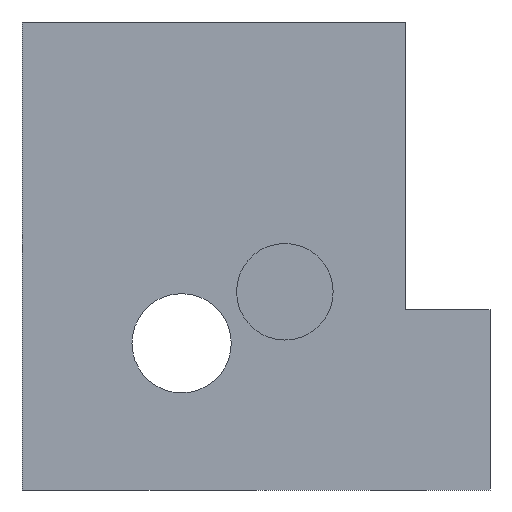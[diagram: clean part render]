
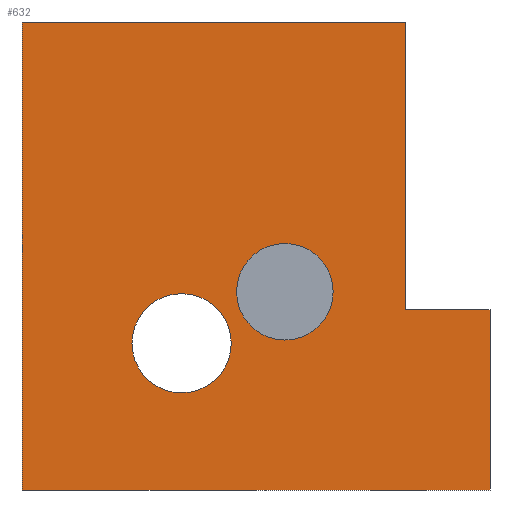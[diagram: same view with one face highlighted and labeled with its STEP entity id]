
A CAD part, left-side view. The second image highlights one B-rep face of the part: STEP entity #632.
In plain terms, the highlighted planar face has unit normal (-1, 0, 0).
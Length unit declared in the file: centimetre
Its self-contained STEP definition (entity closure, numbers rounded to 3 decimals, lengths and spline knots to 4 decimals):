
#10 = ORIENTED_EDGE ( 'NONE', *, *, #736, .T. ) ;
#40 = EDGE_LOOP ( 'NONE', ( #99, #829 ) ) ;
#50 = CARTESIAN_POINT ( 'NONE',  ( 0., 0., 385.5378 ) ) ;
#52 = DIRECTION ( 'NONE',  ( 0., 0., -1. ) ) ;
#62 = CARTESIAN_POINT ( 'NONE',  ( 0., 181.4638, 385.5378 ) ) ;
#63 = VECTOR ( 'NONE', #302, 100. ) ;
#86 = DIRECTION ( 'NONE',  ( 0., 0., -1. ) ) ;
#95 = CARTESIAN_POINT ( 'NONE',  ( 0., 658.929, 207.4998 ) ) ;
#99 = ORIENTED_EDGE ( 'NONE', *, *, #328, .F. ) ;
#113 = DIRECTION ( 'NONE',  ( 1., 0., 0. ) ) ;
#114 = CIRCLE ( 'NONE', #168, 103.1527 ) ;
#148 = AXIS2_PLACEMENT_3D ( 'NONE', #759, #701, #707 ) ;
#157 = VERTEX_POINT ( 'NONE', #398 ) ;
#158 = FACE_OUTER_BOUND ( 'NONE', #726, .T. ) ;
#160 = VECTOR ( 'NONE', #345, 100. ) ;
#164 = EDGE_CURVE ( 'NONE', #217, #192, #610, .T. ) ;
#168 = AXIS2_PLACEMENT_3D ( 'NONE', #566, #625, #372 ) ;
#170 = LINE ( 'NONE', #427, #602 ) ;
#192 = VERTEX_POINT ( 'NONE', #95 ) ;
#194 = VERTEX_POINT ( 'NONE', #417 ) ;
#200 = VERTEX_POINT ( 'NONE', #483 ) ;
#205 = CARTESIAN_POINT ( 'NONE',  ( 0., 0., 1000. ) ) ;
#215 = LINE ( 'NONE', #688, #796 ) ;
#217 = VERTEX_POINT ( 'NONE', #351 ) ;
#220 = PLANE ( 'NONE',  #716 ) ;
#231 = FACE_BOUND ( 'NONE', #237, .T. ) ;
#234 = CARTESIAN_POINT ( 'NONE',  ( 0., 181.4638, 385.5378 ) ) ;
#236 = CIRCLE ( 'NONE', #779, 103.1527 ) ;
#237 = EDGE_LOOP ( 'NONE', ( #669, #315 ) ) ;
#255 = CARTESIAN_POINT ( 'NONE',  ( 0., 0., 0. ) ) ;
#277 = VERTEX_POINT ( 'NONE', #477 ) ;
#278 = DIRECTION ( 'NONE',  ( 0., 0., 1. ) ) ;
#292 = VERTEX_POINT ( 'NONE', #799 ) ;
#298 = DIRECTION ( 'NONE',  ( 1., 0., 0. ) ) ;
#302 = DIRECTION ( 'NONE',  ( 0., 0., 1. ) ) ;
#309 = EDGE_CURVE ( 'NONE', #194, #506, #368, .T. ) ;
#312 = CARTESIAN_POINT ( 'NONE',  ( 0., 438.4056, 423.5549 ) ) ;
#313 = LINE ( 'NONE', #765, #364 ) ;
#314 = EDGE_CURVE ( 'NONE', #292, #277, #170, .T. ) ;
#315 = ORIENTED_EDGE ( 'NONE', *, *, #164, .T. ) ;
#328 = EDGE_CURVE ( 'NONE', #157, #200, #114, .T. ) ;
#329 = CIRCLE ( 'NONE', #767, 106.043 ) ;
#333 = ORIENTED_EDGE ( 'NONE', *, *, #314, .T. ) ;
#341 = VECTOR ( 'NONE', #709, 100. ) ;
#345 = DIRECTION ( 'NONE',  ( 0., -1., 0. ) ) ;
#351 = CARTESIAN_POINT ( 'NONE',  ( 0., 658.929, 419.5859 ) ) ;
#364 = VECTOR ( 'NONE', #563, 100. ) ;
#368 = LINE ( 'NONE', #234, #63 ) ;
#369 = CARTESIAN_POINT ( 'NONE',  ( 0., 1000., 1000. ) ) ;
#372 = DIRECTION ( 'NONE',  ( 0., 0., 1. ) ) ;
#386 = VERTEX_POINT ( 'NONE', #255 ) ;
#398 = CARTESIAN_POINT ( 'NONE',  ( 0., 438.4056, 526.7076 ) ) ;
#409 = DIRECTION ( 'NONE',  ( 0., -1., 0. ) ) ;
#417 = CARTESIAN_POINT ( 'NONE',  ( 0., 181.4638, 385.5378 ) ) ;
#419 = VERTEX_POINT ( 'NONE', #50 ) ;
#427 = CARTESIAN_POINT ( 'NONE',  ( 0., 1000., 1000. ) ) ;
#432 = EDGE_CURVE ( 'NONE', #200, #157, #236, .T. ) ;
#458 = EDGE_CURVE ( 'NONE', #194, #419, #585, .T. ) ;
#471 = ORIENTED_EDGE ( 'NONE', *, *, #478, .F. ) ;
#477 = CARTESIAN_POINT ( 'NONE',  ( 0., 1000., 0. ) ) ;
#478 = EDGE_CURVE ( 'NONE', #419, #386, #841, .T. ) ;
#483 = CARTESIAN_POINT ( 'NONE',  ( 0., 438.4056, 320.4023 ) ) ;
#506 = VERTEX_POINT ( 'NONE', #721 ) ;
#563 = DIRECTION ( 'NONE',  ( 0., -1., 0. ) ) ;
#566 = CARTESIAN_POINT ( 'NONE',  ( 0., 438.4056, 423.5549 ) ) ;
#585 = LINE ( 'NONE', #62, #160 ) ;
#590 = ORIENTED_EDGE ( 'NONE', *, *, #458, .F. ) ;
#602 = VECTOR ( 'NONE', #86, 100. ) ;
#610 = CIRCLE ( 'NONE', #148, 106.043 ) ;
#615 = DIRECTION ( 'NONE',  ( 0., 0., -1. ) ) ;
#621 = FACE_BOUND ( 'NONE', #40, .T. ) ;
#625 = DIRECTION ( 'NONE',  ( -1., 0., 0. ) ) ;
#632 = ADVANCED_FACE ( 'NONE', ( #231, #621, #158 ), #220, .F. ) ;
#669 = ORIENTED_EDGE ( 'NONE', *, *, #810, .T. ) ;
#673 = EDGE_CURVE ( 'NONE', #292, #506, #215, .T. ) ;
#688 = CARTESIAN_POINT ( 'NONE',  ( 0., 1000., 1000. ) ) ;
#701 = DIRECTION ( 'NONE',  ( 1., 0., 0. ) ) ;
#707 = DIRECTION ( 'NONE',  ( 0., 0., -1. ) ) ;
#709 = DIRECTION ( 'NONE',  ( 0., 0., -1. ) ) ;
#716 = AXIS2_PLACEMENT_3D ( 'NONE', #369, #298, #615 ) ;
#721 = CARTESIAN_POINT ( 'NONE',  ( 0., 181.4638, 1000. ) ) ;
#726 = EDGE_LOOP ( 'NONE', ( #590, #826, #754, #333, #10, #471 ) ) ;
#736 = EDGE_CURVE ( 'NONE', #277, #386, #313, .T. ) ;
#754 = ORIENTED_EDGE ( 'NONE', *, *, #673, .F. ) ;
#759 = CARTESIAN_POINT ( 'NONE',  ( 0., 658.929, 313.5429 ) ) ;
#765 = CARTESIAN_POINT ( 'NONE',  ( 0., 1000., 0. ) ) ;
#767 = AXIS2_PLACEMENT_3D ( 'NONE', #823, #113, #52 ) ;
#779 = AXIS2_PLACEMENT_3D ( 'NONE', #312, #821, #278 ) ;
#796 = VECTOR ( 'NONE', #409, 100. ) ;
#799 = CARTESIAN_POINT ( 'NONE',  ( 0., 1000., 1000. ) ) ;
#810 = EDGE_CURVE ( 'NONE', #192, #217, #329, .T. ) ;
#821 = DIRECTION ( 'NONE',  ( -1., 0., 0. ) ) ;
#823 = CARTESIAN_POINT ( 'NONE',  ( 0., 658.929, 313.5429 ) ) ;
#826 = ORIENTED_EDGE ( 'NONE', *, *, #309, .T. ) ;
#829 = ORIENTED_EDGE ( 'NONE', *, *, #432, .F. ) ;
#841 = LINE ( 'NONE', #205, #341 ) ;
